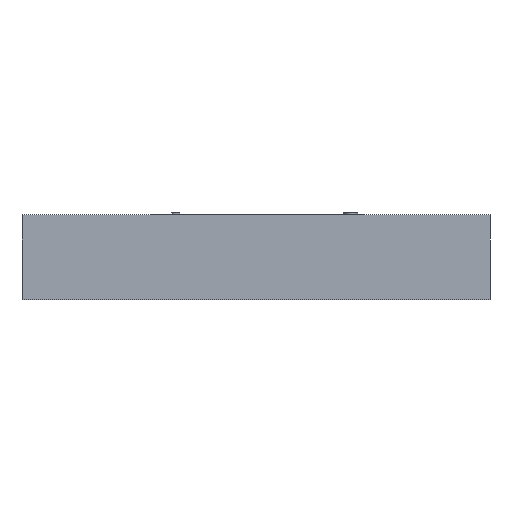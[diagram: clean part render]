
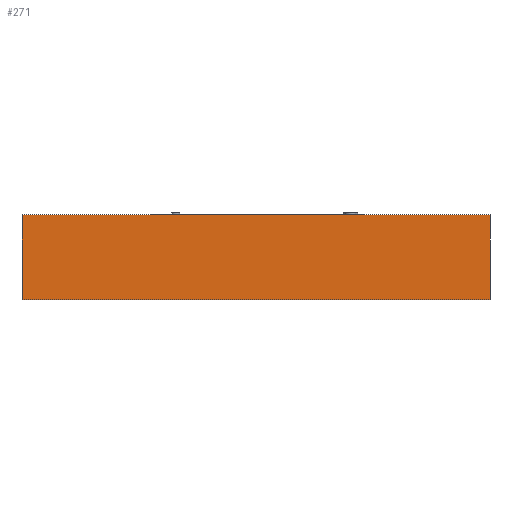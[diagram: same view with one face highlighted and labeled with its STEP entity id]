
A CAD part, front view. The second image highlights one B-rep face of the part: STEP entity #271.
In plain terms, the highlighted planar face has unit normal (0, -1, 0).
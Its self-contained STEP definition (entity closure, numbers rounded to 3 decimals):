
#271 = ADVANCED_FACE( '', ( #732 ), #733, .T. );
#732 = FACE_OUTER_BOUND( '', #2826, .T. );
#733 = PLANE( '', #2827 );
#2826 = EDGE_LOOP( '', ( #4520, #4521, #4522, #4523 ) );
#2827 = AXIS2_PLACEMENT_3D( '', #4524, #4525, #4526 );
#4520 = ORIENTED_EDGE( '', *, *, #4724, .F. );
#4521 = ORIENTED_EDGE( '', *, *, #4970, .F. );
#4522 = ORIENTED_EDGE( '', *, *, #4746, .T. );
#4523 = ORIENTED_EDGE( '', *, *, #4969, .T. );
#4524 = CARTESIAN_POINT( '', ( -100., -100., -36.2 ) );
#4525 = DIRECTION( '', ( 0., -1., 0. ) );
#4526 = DIRECTION( '', ( 1., 0., 0. ) );
#4724 = EDGE_CURVE( '', #5316, #5318, #5319, .T. );
#4746 = EDGE_CURVE( '', #5356, #5360, #5362, .T. );
#4969 = EDGE_CURVE( '', #5360, #5318, #5679, .T. );
#4970 = EDGE_CURVE( '', #5356, #5316, #5680, .T. );
#5316 = VERTEX_POINT( '', #6322 );
#5318 = VERTEX_POINT( '', #6325 );
#5319 = LINE( '', #6326, #6327 );
#5356 = VERTEX_POINT( '', #6366 );
#5360 = VERTEX_POINT( '', #6372 );
#5362 = LINE( '', #6375, #6376 );
#5679 = LINE( '', #7439, #7440 );
#5680 = LINE( '', #7441, #7442 );
#6322 = CARTESIAN_POINT( '', ( -100., -100., 0. ) );
#6325 = CARTESIAN_POINT( '', ( 100., -100., 0. ) );
#6326 = CARTESIAN_POINT( '', ( -100., -100., 0. ) );
#6327 = VECTOR( '', #7775, 1000. );
#6366 = CARTESIAN_POINT( '', ( -100., -100., -36.2 ) );
#6372 = CARTESIAN_POINT( '', ( 100., -100., -36.2 ) );
#6375 = CARTESIAN_POINT( '', ( -100., -100., -36.2 ) );
#6376 = VECTOR( '', #7829, 1000. );
#7439 = CARTESIAN_POINT( '', ( 100., -100., -36.2 ) );
#7440 = VECTOR( '', #8148, 1000. );
#7441 = CARTESIAN_POINT( '', ( -100., -100., -36.2 ) );
#7442 = VECTOR( '', #8149, 1000. );
#7775 = DIRECTION( '', ( 1., 0., 0. ) );
#7829 = DIRECTION( '', ( 1., 0., 0. ) );
#8148 = DIRECTION( '', ( 0., 0., 1. ) );
#8149 = DIRECTION( '', ( 0., 0., 1. ) );
